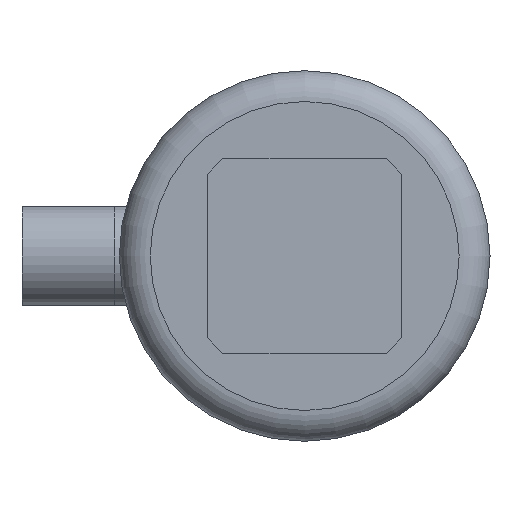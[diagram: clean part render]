
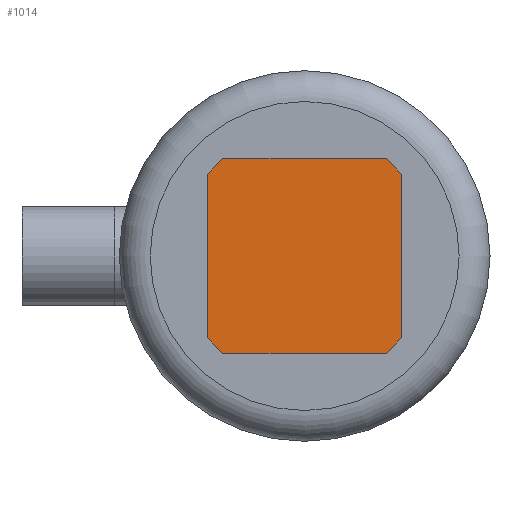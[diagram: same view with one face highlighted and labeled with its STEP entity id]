
A CAD part, left-side view. The second image highlights one B-rep face of the part: STEP entity #1014.
In plain terms, the highlighted planar face has unit normal (-1, 0, 0).
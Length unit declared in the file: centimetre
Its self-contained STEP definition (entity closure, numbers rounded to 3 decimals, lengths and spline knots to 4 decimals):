
#589=VERTEX_POINT('',#1260);
#590=VERTEX_POINT('',#1261);
#593=VERTEX_POINT('',#1269);
#594=VERTEX_POINT('',#1271);
#595=VERTEX_POINT('',#1273);
#596=VERTEX_POINT('',#1275);
#597=VERTEX_POINT('',#1277);
#598=VERTEX_POINT('',#1279);
#638=VECTOR('',#1117,1.);
#642=VECTOR('',#1122,1.);
#643=VECTOR('',#1123,1.);
#644=VECTOR('',#1124,1.);
#645=VECTOR('',#1125,1.);
#646=VECTOR('',#1126,1.);
#647=VECTOR('',#1127,1.);
#648=VECTOR('',#1128,1.);
#674=LINE('',#1259,#638);
#678=LINE('',#1268,#642);
#679=LINE('',#1270,#643);
#680=LINE('',#1272,#644);
#681=LINE('',#1274,#645);
#682=LINE('',#1276,#646);
#683=LINE('',#1278,#647);
#684=LINE('',#1280,#648);
#710=EDGE_CURVE('',#589,#590,#674,.T.);
#714=EDGE_CURVE('',#590,#593,#678,.T.);
#715=EDGE_CURVE('',#593,#594,#679,.T.);
#716=EDGE_CURVE('',#594,#595,#680,.T.);
#717=EDGE_CURVE('',#595,#596,#681,.T.);
#718=EDGE_CURVE('',#596,#597,#682,.T.);
#719=EDGE_CURVE('',#597,#598,#683,.T.);
#720=EDGE_CURVE('',#598,#589,#684,.T.);
#779=ORIENTED_EDGE('',*,*,#710,.T.);
#780=ORIENTED_EDGE('',*,*,#714,.T.);
#781=ORIENTED_EDGE('',*,*,#715,.T.);
#782=ORIENTED_EDGE('',*,*,#716,.T.);
#783=ORIENTED_EDGE('',*,*,#717,.T.);
#784=ORIENTED_EDGE('',*,*,#718,.T.);
#785=ORIENTED_EDGE('',*,*,#719,.T.);
#786=ORIENTED_EDGE('',*,*,#720,.T.);
#906=EDGE_LOOP('',(#779,#780,#781,#782,#783,#784,#785,#786));
#960=FACE_BOUND('',#906,.T.);
#1014=ADVANCED_FACE('',(#960),#1498,.F.);
#1051=AXIS2_PLACEMENT_3D('',#1267,#1121,$);
#1117=DIRECTION('',(0.,0.707,-0.707));
#1121=DIRECTION('',(1.,0.,0.));
#1122=DIRECTION('',(0.,0.,-1.));
#1123=DIRECTION('',(0.,-0.707,-0.707));
#1124=DIRECTION('',(0.,-1.,0.));
#1125=DIRECTION('',(0.,-0.707,0.707));
#1126=DIRECTION('',(0.,0.,1.));
#1127=DIRECTION('',(0.,0.707,0.707));
#1128=DIRECTION('',(0.,1.,0.));
#1259=CARTESIAN_POINT('',(-4.325,0.29,0.29));
#1260=CARTESIAN_POINT('',(-4.325,0.265,0.315));
#1261=CARTESIAN_POINT('',(-4.325,0.315,0.265));
#1267=CARTESIAN_POINT('',(-4.325,0.,0.));
#1268=CARTESIAN_POINT('',(-4.325,0.315,0.315));
#1269=CARTESIAN_POINT('',(-4.325,0.315,-0.265));
#1270=CARTESIAN_POINT('',(-4.325,0.29,-0.29));
#1271=CARTESIAN_POINT('',(-4.325,0.265,-0.315));
#1272=CARTESIAN_POINT('',(-4.325,0.315,-0.315));
#1273=CARTESIAN_POINT('',(-4.325,-0.265,-0.315));
#1274=CARTESIAN_POINT('',(-4.325,-0.29,-0.29));
#1275=CARTESIAN_POINT('',(-4.325,-0.315,-0.265));
#1276=CARTESIAN_POINT('',(-4.325,-0.315,-0.315));
#1277=CARTESIAN_POINT('',(-4.325,-0.315,0.265));
#1278=CARTESIAN_POINT('',(-4.325,-0.29,0.29));
#1279=CARTESIAN_POINT('',(-4.325,-0.265,0.315));
#1280=CARTESIAN_POINT('',(-4.325,-0.315,0.315));
#1498=PLANE('',#1051);
